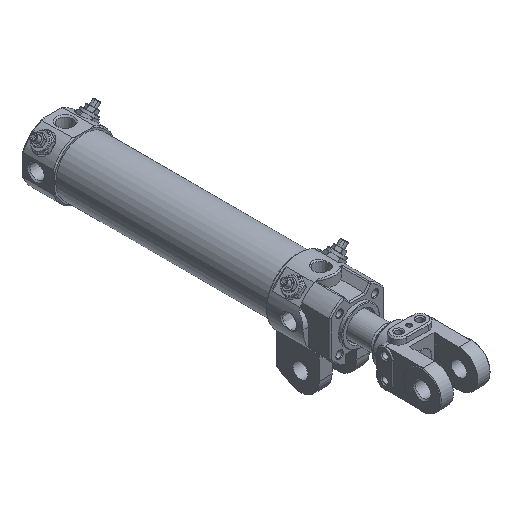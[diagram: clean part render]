
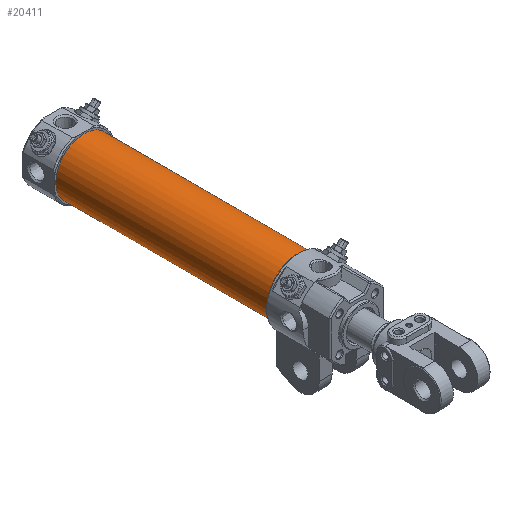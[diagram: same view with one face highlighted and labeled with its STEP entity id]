
A CAD part, isometric view. The second image highlights one B-rep face of the part: STEP entity #20411.
In plain terms, the highlighted cylindrical face has radius 22.5 mm (diameter 45 mm), a full revolution.
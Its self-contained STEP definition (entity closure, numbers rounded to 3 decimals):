
#15090=CARTESIAN_POINT('',(22.5,221.5,0.));
#15091=VERTEX_POINT('',#15090);
#15092=CARTESIAN_POINT('',(0.0,221.5,0.0));
#15093=DIRECTION('',(0.0,-1.0,0.0));
#15094=DIRECTION('',(-1.0,0.0,0.0));
#15095=AXIS2_PLACEMENT_3D('',#15092,#15093,#15094);
#15096=CIRCLE('',#15095,22.5);
#15097=EDGE_CURVE('',#15091,#15091,#15096,.T.);
#20388=CARTESIAN_POINT('',(22.5,50.5,0.));
#20389=VERTEX_POINT('',#20388);
#20390=CARTESIAN_POINT('',(0.0,50.5,0.0));
#20391=DIRECTION('',(0.0,-1.0,0.0));
#20392=DIRECTION('',(-1.0,0.0,0.0));
#20393=AXIS2_PLACEMENT_3D('',#20390,#20391,#20392);
#20394=CIRCLE('',#20393,22.5);
#20395=EDGE_CURVE('',#20389,#20389,#20394,.T.);
#20400=CARTESIAN_POINT('',(0.0,50.5,0.0));
#20401=DIRECTION('',(0.0,1.0,0.0));
#20402=DIRECTION('',(-1.0,0.0,0.0));
#20403=AXIS2_PLACEMENT_3D('',#20400,#20401,#20402);
#20404=CYLINDRICAL_SURFACE('',#20403,22.5);
#20405=ORIENTED_EDGE('',*,*,#15097,.T.);
#20406=EDGE_LOOP('',(#20405));
#20407=FACE_OUTER_BOUND('',#20406,.T.);
#20408=ORIENTED_EDGE('',*,*,#20395,.F.);
#20409=EDGE_LOOP('',(#20408));
#20410=FACE_BOUND('',#20409,.T.);
#20411=ADVANCED_FACE('',(#20407,#20410),#20404,.T.);
